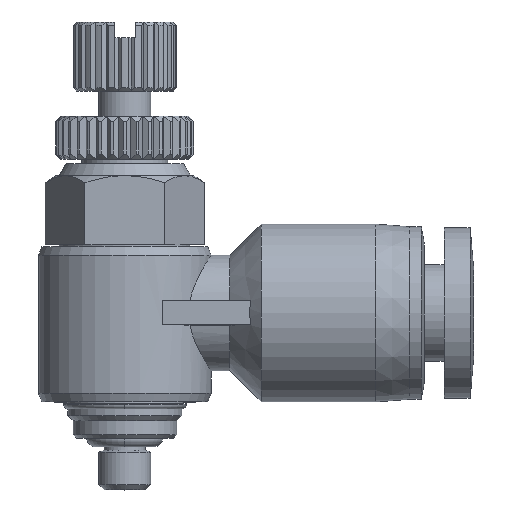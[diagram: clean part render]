
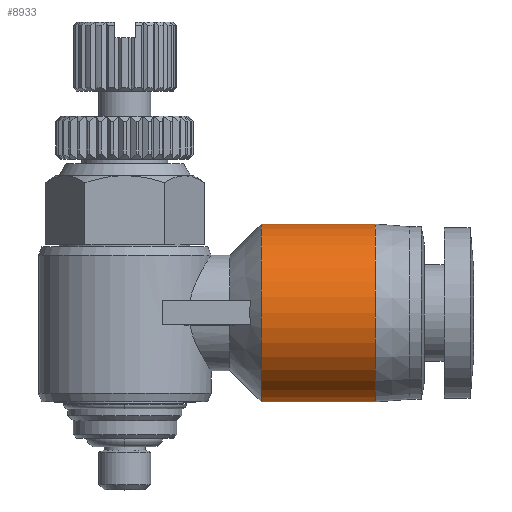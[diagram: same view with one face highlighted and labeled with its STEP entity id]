
A CAD part, top view. The second image highlights one B-rep face of the part: STEP entity #8933.
In plain terms, the highlighted cylindrical face has radius 5.15 mm (diameter 10.3 mm), a partial arc.
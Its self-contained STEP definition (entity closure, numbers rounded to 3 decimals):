
#101 = CARTESIAN_POINT ( 'NONE',  ( 11.195, 5.1, 0. ) ) ;
#311 = EDGE_CURVE ( 'NONE', #584, #8960, #1285, .T. ) ;
#467 = CYLINDRICAL_SURFACE ( 'NONE', #5132, 5.15 ) ;
#584 = VERTEX_POINT ( 'NONE', #6674 ) ;
#680 = DIRECTION ( 'NONE',  ( 1., 0., 0. ) ) ;
#1048 = CIRCLE ( 'NONE', #8829, 5.15 ) ;
#1285 = LINE ( 'NONE', #1936, #8997 ) ;
#1455 = DIRECTION ( 'NONE',  ( 0., 0., -1. ) ) ;
#1916 = ORIENTED_EDGE ( 'NONE', *, *, #311, .F. ) ;
#1936 = CARTESIAN_POINT ( 'NONE',  ( 11.195, 15.4, 0. ) ) ;
#2422 = DIRECTION ( 'NONE',  ( 1., 0., 0. ) ) ;
#2768 = FACE_OUTER_BOUND ( 'NONE', #8774, .T. ) ;
#2770 = VERTEX_POINT ( 'NONE', #9874 ) ;
#2839 = VERTEX_POINT ( 'NONE', #6221 ) ;
#3113 = EDGE_CURVE ( 'NONE', #8960, #2770, #9065, .T. ) ;
#4162 = CARTESIAN_POINT ( 'NONE',  ( 11.195, 10.25, 0. ) ) ;
#4687 = AXIS2_PLACEMENT_3D ( 'NONE', #7735, #680, #1455 ) ;
#4969 = VECTOR ( 'NONE', #5485, 1000. ) ;
#5132 = AXIS2_PLACEMENT_3D ( 'NONE', #4162, #7251, #8129 ) ;
#5485 = DIRECTION ( 'NONE',  ( 1., 0., 0. ) ) ;
#6177 = CARTESIAN_POINT ( 'NONE',  ( 7.89, 10.25, 0. ) ) ;
#6221 = CARTESIAN_POINT ( 'NONE',  ( 7.89, 5.1, 0. ) ) ;
#6238 = EDGE_CURVE ( 'NONE', #584, #2839, #1048, .T. ) ;
#6379 = LINE ( 'NONE', #101, #4969 ) ;
#6674 = CARTESIAN_POINT ( 'NONE',  ( 7.89, 15.4, 0. ) ) ;
#7251 = DIRECTION ( 'NONE',  ( 1., 0., 0. ) ) ;
#7593 = ORIENTED_EDGE ( 'NONE', *, *, #9212, .T. ) ;
#7657 = CARTESIAN_POINT ( 'NONE',  ( 14.5, 15.4, 0. ) ) ;
#7735 = CARTESIAN_POINT ( 'NONE',  ( 14.5, 10.25, 0. ) ) ;
#8129 = DIRECTION ( 'NONE',  ( 0., 1., 0. ) ) ;
#8504 = ORIENTED_EDGE ( 'NONE', *, *, #3113, .F. ) ;
#8774 = EDGE_LOOP ( 'NONE', ( #9907, #7593, #8504, #1916 ) ) ;
#8829 = AXIS2_PLACEMENT_3D ( 'NONE', #6177, #2422, #10028 ) ;
#8933 = ADVANCED_FACE ( 'NONE', ( #2768 ), #467, .T. ) ;
#8960 = VERTEX_POINT ( 'NONE', #7657 ) ;
#8997 = VECTOR ( 'NONE', #9787, 1000. ) ;
#9065 = CIRCLE ( 'NONE', #4687, 5.15 ) ;
#9212 = EDGE_CURVE ( 'NONE', #2839, #2770, #6379, .T. ) ;
#9787 = DIRECTION ( 'NONE',  ( 1., 0., 0. ) ) ;
#9874 = CARTESIAN_POINT ( 'NONE',  ( 14.5, 5.1, 0. ) ) ;
#9907 = ORIENTED_EDGE ( 'NONE', *, *, #6238, .T. ) ;
#10028 = DIRECTION ( 'NONE',  ( 0., 0., -1. ) ) ;
